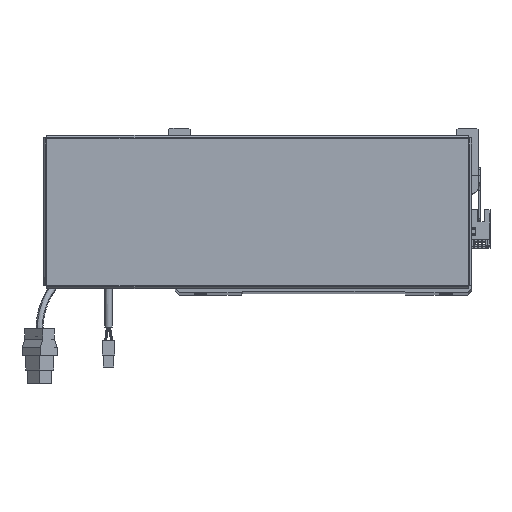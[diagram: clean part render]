
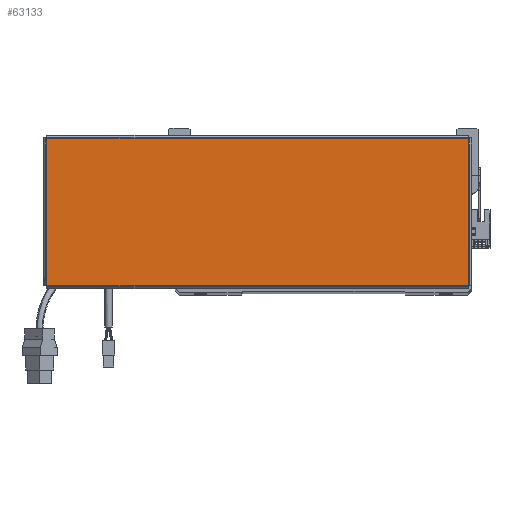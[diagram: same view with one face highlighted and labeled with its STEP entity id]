
A CAD part, top view. The second image highlights one B-rep face of the part: STEP entity #63133.
In plain terms, the highlighted planar face has unit normal (0, 0, 1).
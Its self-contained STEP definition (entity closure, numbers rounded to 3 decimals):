
#837 = VECTOR ( 'NONE', #42347, 1000. ) ;
#4168 = LINE ( 'NONE', #5087, #837 ) ;
#5087 = CARTESIAN_POINT ( 'NONE',  ( -156.513, 54.793, 0. ) ) ;
#7119 = CARTESIAN_POINT ( 'NONE',  ( 156.543, 54.763, 0. ) ) ;
#7213 = ORIENTED_EDGE ( 'NONE', *, *, #56342, .T. ) ;
#7540 = CARTESIAN_POINT ( 'NONE',  ( 156.513, -54.793, 0. ) ) ;
#12460 = ORIENTED_EDGE ( 'NONE', *, *, #43851, .T. ) ;
#13637 = DIRECTION ( 'NONE',  ( -1., 0., 0. ) ) ;
#14464 = VERTEX_POINT ( 'NONE', #44709 ) ;
#15554 = VERTEX_POINT ( 'NONE', #57589 ) ;
#19924 = LINE ( 'NONE', #7540, #29035 ) ;
#23558 = EDGE_CURVE ( 'NONE', #15554, #52661, #19924, .T. ) ;
#25205 = LINE ( 'NONE', #57697, #53606 ) ;
#25691 = DIRECTION ( 'NONE',  ( 1., 0., 0. ) ) ;
#29035 = VECTOR ( 'NONE', #44330, 1000. ) ;
#31432 = PLANE ( 'NONE',  #58871 ) ;
#33913 = EDGE_CURVE ( 'NONE', #51341, #15554, #25205, .T. ) ;
#36076 = CARTESIAN_POINT ( 'NONE',  ( 156.513, 54.763, 0. ) ) ;
#37695 = ORIENTED_EDGE ( 'NONE', *, *, #23558, .T. ) ;
#38603 = FACE_OUTER_BOUND ( 'NONE', #60746, .T. ) ;
#41974 = VECTOR ( 'NONE', #13637, 1000. ) ;
#42346 = CARTESIAN_POINT ( 'NONE',  ( 0., 0., 0. ) ) ;
#42347 = DIRECTION ( 'NONE',  ( 0., -1., 0. ) ) ;
#42556 = DIRECTION ( 'NONE',  ( 1., 0., 0. ) ) ;
#43851 = EDGE_CURVE ( 'NONE', #52661, #14464, #44446, .T. ) ;
#44330 = DIRECTION ( 'NONE',  ( 0., 1., 0. ) ) ;
#44446 = LINE ( 'NONE', #7119, #41974 ) ;
#44709 = CARTESIAN_POINT ( 'NONE',  ( -156.513, 54.763, 0. ) ) ;
#47294 = DIRECTION ( 'NONE',  ( 0., 0., 1. ) ) ;
#51341 = VERTEX_POINT ( 'NONE', #56201 ) ;
#52661 = VERTEX_POINT ( 'NONE', #36076 ) ;
#53606 = VECTOR ( 'NONE', #25691, 1000. ) ;
#56201 = CARTESIAN_POINT ( 'NONE',  ( -156.513, -54.763, 0. ) ) ;
#56342 = EDGE_CURVE ( 'NONE', #14464, #51341, #4168, .T. ) ;
#57589 = CARTESIAN_POINT ( 'NONE',  ( 156.513, -54.763, 0. ) ) ;
#57697 = CARTESIAN_POINT ( 'NONE',  ( -156.543, -54.763, 0. ) ) ;
#58871 = AXIS2_PLACEMENT_3D ( 'NONE', #42346, #47294, #42556 ) ;
#60746 = EDGE_LOOP ( 'NONE', ( #65691, #37695, #12460, #7213 ) ) ;
#63133 = ADVANCED_FACE ( 'NONE', ( #38603 ), #31432, .T. ) ;
#65691 = ORIENTED_EDGE ( 'NONE', *, *, #33913, .T. ) ;
